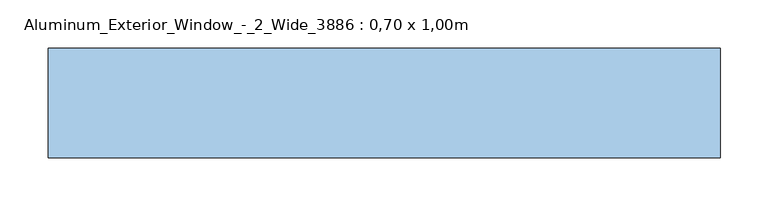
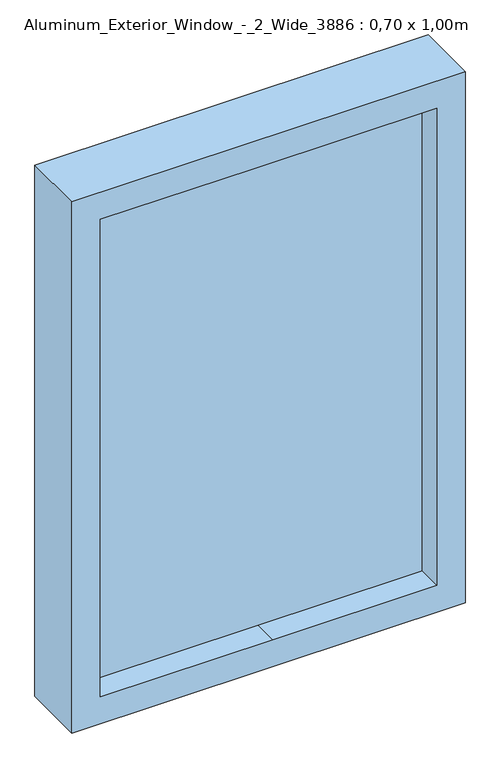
"""IFC4 building model written with IfcOpenShell, lengths in millimetres: window geometry, Aluminum_Exterior_Window_-_2_Wide_3886 : 0,70 x 1,00m."""

from ifc_helpers import new_model, si_unit, frame, origin, place, context, project, spatial, polyline, outline, extrude, source, transform, mapped, element, save


def aluminum_exterior_window_2_wide_3886_0_70_x_1_00m_ebdd4f97(model_context):
    return source(origin(), model_context, "Body", "SweptSolid", [
        extrude(outline(polyline([(2016.0, -1371.6), (1016.0, -1371.6), (1016.0, -671.6), (2016.0, -671.6), (2016.0, -1371.6)]), holes=[polyline([(1965.2, -1047.0), (1965.2, -722.4), (1066.8, -722.4), (1066.8, -1013.8808837), (1066.8, -1320.8), (1965.2, -1320.8), (1965.2, -1047.0)])]), frame((0.0, -38.1424754, 0.0), z_axis=(0.0, 1.0, 0.0), x_axis=(0.0, 0.0, 1.0)), (0.0, 0.0, 1.0), 114.3),
        extrude(outline(polyline([(1965.2, -1047.0), (1965.2, -1320.8), (1066.8, -1320.8), (1066.8, -1020.891469), (1066.8, -722.4), (1965.2, -722.4), (1965.2, -1047.0)])), frame((0.0, 6.3075246, 0.0), z_axis=(0.0, 1.0, 0.0), x_axis=(0.0, 0.0, 1.0)), (0.0, 0.0, 1.0), 25.4),
    ])


if __name__ == "__main__":
    model = new_model("IFC4")
    model_context = context("Model", 3, world=origin())
    ifc_project = project(units=[si_unit("LENGTHUNIT", "METRE", prefix="MILLI")], contexts=[model_context])
    site = spatial("IfcSite", under=ifc_project)
    building = spatial("IfcBuilding", under=site)
    placement = place(None, origin())
    aluminum_exterior_window_2_wide_3886_0_70_x_1_00m_shape = aluminum_exterior_window_2_wide_3886_0_70_x_1_00m_ebdd4f97(model_context)
    element("IfcWindow", 1, ObjectType="Aluminum_Exterior_Window_-_2_Wide_3886 : 0,70 x 1,00m", at=placement, inside=building, context=model_context, shape_type="MappedRepresentation", body=[
        mapped(aluminum_exterior_window_2_wide_3886_0_70_x_1_00m_shape, transform((0.0, 0.0, 0.0), x_axis=(1.0, 0.0, 0.0), y_axis=(0.0, 1.0, 0.0), z_axis=(0.0, 0.0, 1.0))),
    ])
    save(model, "model.ifc")
